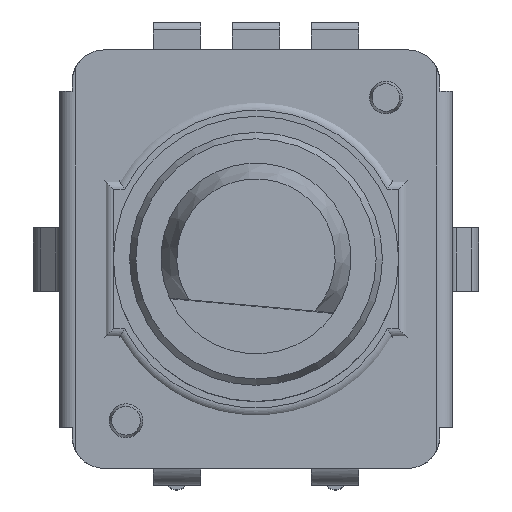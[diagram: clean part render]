
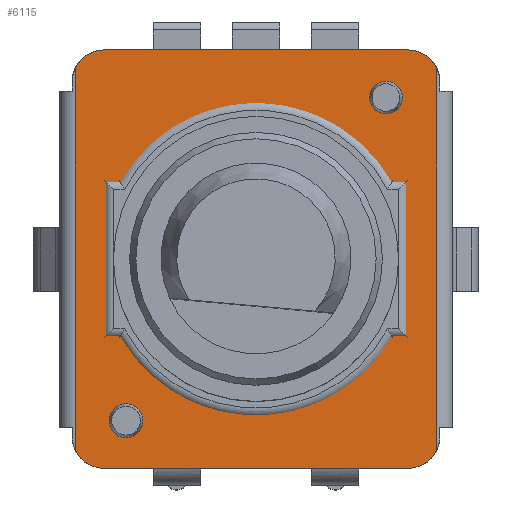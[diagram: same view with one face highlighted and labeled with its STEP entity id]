
A CAD part, top view. The second image highlights one B-rep face of the part: STEP entity #6115.
In plain terms, the highlighted planar face has unit normal (0, 0, 1).
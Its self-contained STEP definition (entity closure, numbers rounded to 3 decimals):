
#617=LINE($,#9925,#1351);
#633=LINE($,#9982,#1367);
#642=LINE($,#10016,#1376);
#643=LINE($,#10017,#1377);
#1351=VECTOR($,#7983,9.6);
#1367=VECTOR($,#8025,9.6);
#1376=VECTOR($,#8054,12.072);
#1377=VECTOR($,#8055,12.072);
#1741=PLANE($,#6623);
#2043=FACE_OUTER_BOUND($,#2367,.T.);
#2367=EDGE_LOOP($,(#5337,#5338,#5339,#5340,#5341,#5342,#5343,#5344));
#2585=CIRCLE($,#6599,1.);
#2586=CIRCLE($,#6602,1.);
#2591=CIRCLE($,#6612,1.);
#2592=CIRCLE($,#6615,1.);
#3104=VERTEX_POINT($,#9913);
#3105=VERTEX_POINT($,#9920);
#3106=VERTEX_POINT($,#9924);
#3108=VERTEX_POINT($,#9929);
#3120=VERTEX_POINT($,#9969);
#3121=VERTEX_POINT($,#9976);
#3122=VERTEX_POINT($,#9980);
#3124=VERTEX_POINT($,#9985);
#3928=EDGE_CURVE($,#3104,#3105,#2585,.T.);
#3930=EDGE_CURVE($,#3105,#3106,#617,.T.);
#3934=EDGE_CURVE($,#3106,#3108,#2586,.T.);
#3951=EDGE_CURVE($,#3120,#3121,#2591,.T.);
#3954=EDGE_CURVE($,#3121,#3122,#633,.T.);
#3957=EDGE_CURVE($,#3122,#3124,#2592,.T.);
#3969=EDGE_CURVE($,#3108,#3120,#642,.T.);
#3970=EDGE_CURVE($,#3124,#3104,#643,.T.);
#5337=ORIENTED_EDGE($,*,*,#3969,.F.);
#5338=ORIENTED_EDGE($,*,*,#3934,.F.);
#5339=ORIENTED_EDGE($,*,*,#3930,.F.);
#5340=ORIENTED_EDGE($,*,*,#3928,.F.);
#5341=ORIENTED_EDGE($,*,*,#3970,.F.);
#5342=ORIENTED_EDGE($,*,*,#3957,.F.);
#5343=ORIENTED_EDGE($,*,*,#3954,.F.);
#5344=ORIENTED_EDGE($,*,*,#3951,.F.);
#6115=ADVANCED_FACE($,(#2043),#1741,.T.);
#6599=AXIS2_PLACEMENT_3D($,#9921,#7978,#7979);
#6602=AXIS2_PLACEMENT_3D($,#9937,#7988,#7989);
#6612=AXIS2_PLACEMENT_3D($,#9977,#8019,#8020);
#6615=AXIS2_PLACEMENT_3D($,#9993,#8029,#8030);
#6623=AXIS2_PLACEMENT_3D($,#10015,#8052,#8053);
#7978=DIRECTION('center_axis',(0.,0.,
-1.));
#7979=DIRECTION('ref_axis',(0.707,-0.707,0.));
#7983=DIRECTION($,(-1.,0.,0.));
#7988=DIRECTION('center_axis',(0.,0.,
-1.));
#7989=DIRECTION('ref_axis',(-0.707,-0.707,0.));
#8019=DIRECTION('center_axis',(0.,0.,
-1.));
#8020=DIRECTION('ref_axis',(-0.707,0.707,0.));
#8025=DIRECTION($,(1.,0.,0.));
#8029=DIRECTION('center_axis',(0.,0.,
-1.));
#8030=DIRECTION('ref_axis',(0.707,0.707,0.));
#8052=DIRECTION('center_axis',(0.,0.,
1.));
#8053=DIRECTION('ref_axis',(1.,0.,0.));
#8054=DIRECTION($,(0.,1.,0.));
#8055=DIRECTION($,(0.,-1.,0.));
#9913=CARTESIAN_POINT('',(5.7,-6.036,6.6));
#9920=CARTESIAN_POINT('',(4.8,-6.6,6.6));
#9921=CARTESIAN_POINT('Origin',(4.8,-5.6,6.6));
#9924=CARTESIAN_POINT('',(-4.8,-6.6,6.6));
#9925=CARTESIAN_POINT($,(5.8,-6.6,6.6));
#9929=CARTESIAN_POINT('',(-5.7,-6.036,6.6));
#9937=CARTESIAN_POINT('Origin',(-4.8,-5.6,6.6));
#9969=CARTESIAN_POINT('',(-5.7,6.036,6.6));
#9976=CARTESIAN_POINT('',(-4.8,6.6,6.6));
#9977=CARTESIAN_POINT('Origin',(-4.8,5.6,6.6));
#9980=CARTESIAN_POINT('',(4.8,6.6,6.6));
#9982=CARTESIAN_POINT($,(-5.8,6.6,6.6));
#9985=CARTESIAN_POINT('',(5.7,6.036,6.6));
#9993=CARTESIAN_POINT('Origin',(4.8,5.6,6.6));
#10015=CARTESIAN_POINT('Origin',(0.,0.,
6.6));
#10016=CARTESIAN_POINT($,(-5.7,0.,6.6));
#10017=CARTESIAN_POINT($,(5.7,0.,6.6));
